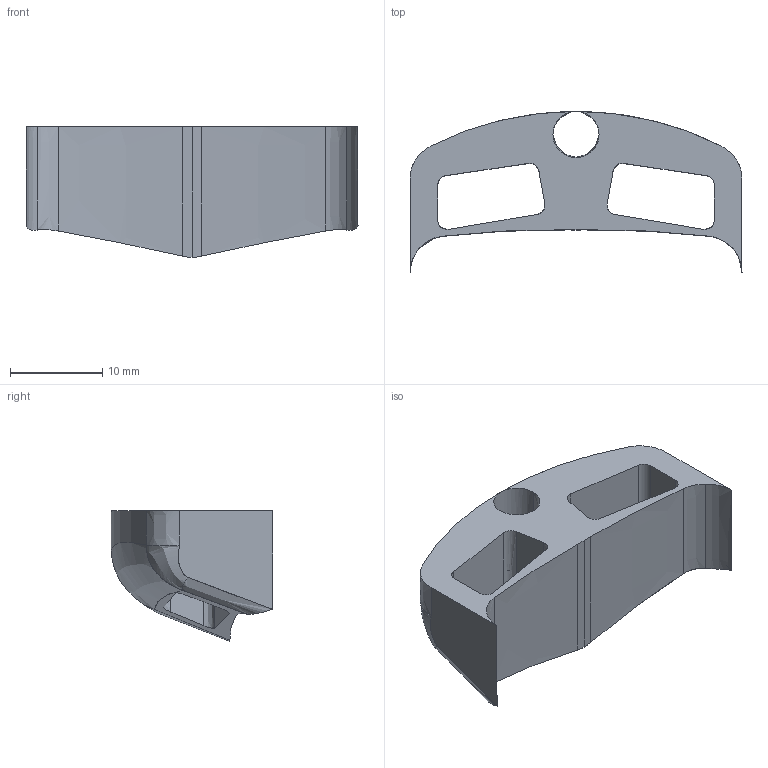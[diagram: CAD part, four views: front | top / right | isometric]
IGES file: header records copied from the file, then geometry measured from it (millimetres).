
Start section:  PTC IGES file: c:\works\pro\koppi.igs
Global section: file name: c:\works\pro\koppi.igs; native system: Pro/ENGINEER by Parametric Technology Corporation; preprocessor: 2001150; author: telimaa; organization: Unknown; date: 040905.141405; units: millimetre
Bounding box: 36 x 17.47 x 14.15 mm (x, y, z)
Surface area: 2381.4 mm2 (no closed solid volume)
Topology: 0 solids, 0 shells, 45 faces, 246 edges, 246 vertices
Faces by surface type: bspline 25, revolution 12, extrusion 8
